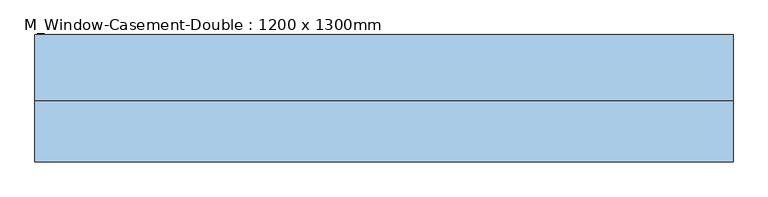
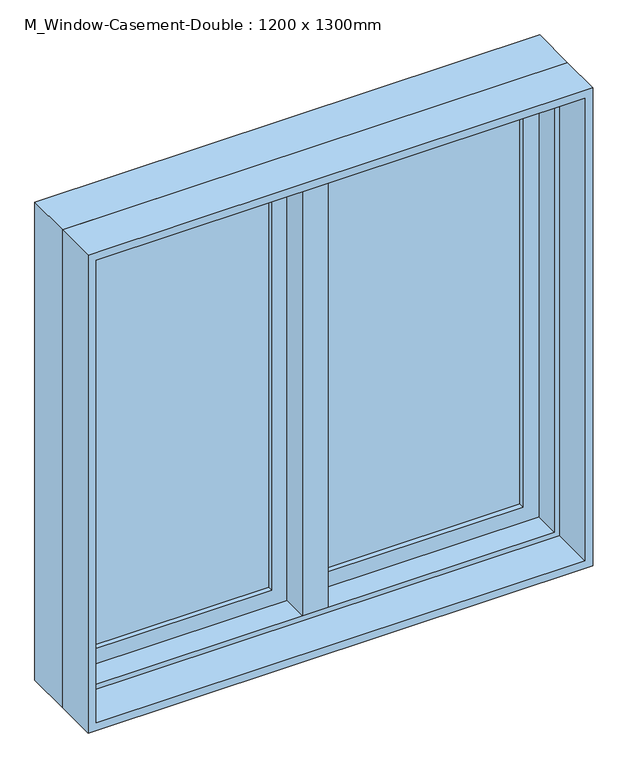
"""IFC4 building model written with IfcOpenShell, lengths in millimetres: window geometry, M_Window-Casement-Double : 1200 x 1300mm."""

from ifc_helpers import new_model, si_unit, frame, origin, place, context, project, spatial, polyline, outline, extrude, faceted_brep, source, transform, mapped, element, save


def m_window_casement_double_1200_x_1300mm_fd8d9702(model_context):
    return source(origin(), model_context, "Body", "SolidModel", [
        faceted_brep([(9.525, 119.05, 2087.3), (-9.525, 119.05, 2087.3), (-9.525, 68.25, 2087.3), (9.525, 68.25, 2087.3), (9.525, 119.05, 912.7), (9.525, 68.25, 912.7), (-9.525, 68.25, 912.7), (-9.525, 119.05, 912.7), (-9.525, 68.25, 931.75), (-9.525, 68.25, 2068.25), (-30.1625, 68.25, 931.75), (-30.1625, 68.25, 2068.25), (-30.1625, 4.75, 931.75), (-30.1625, 4.75, 2068.25), (30.1625, 4.75, 931.75), (30.1625, 4.75, 2068.25), (30.1625, 68.25, 931.75), (30.1625, 68.25, 2068.25), (9.525, 68.25, 931.75), (9.525, 68.25, 2068.25)], [[[0, 1, 2, 3]], [[4, 5, 6, 7]], [[1, 0, 4, 7]], [[2, 1, 7, 6, 8, 9]], [[9, 8, 10, 11]], [[11, 10, 12, 13]], [[13, 12, 14, 15]], [[15, 14, 16, 17]], [[17, 16, 18, 19]], [[0, 3, 19, 18, 5, 4]], [[18, 8, 6, 5]], [[9, 19, 3, 2]], [[8, 18, 16, 14, 12, 10]], [[19, 9, 11, 13, 15, 17]]]),
        extrude(outline(polyline([(-66.675, 100.0), (-66.675, 93.65), (-530.15, 93.65), (-530.15, 100.0), (-66.675, 100.0)])), frame((0.0, 0.0, 969.85), z_axis=(0.0, 0.0, 1.0), x_axis=(1.0, 0.0, 0.0)), (0.0, 0.0, 1.0), 1060.3),
        extrude(outline(polyline([(-530.15, 80.95), (-530.15, 87.3), (-66.675, 87.3), (-66.675, 80.95), (-530.15, 80.95)])), frame((0.0, 0.0, 969.85), z_axis=(0.0, 0.0, 1.0), x_axis=(1.0, 0.0, 0.0)), (0.0, 0.0, 1.0), 1060.3),
        extrude(outline(polyline([(530.15, 100.0), (530.15, 93.65), (66.675, 93.65), (66.675, 100.0), (530.15, 100.0)])), frame((0.0, 0.0, 969.85), z_axis=(0.0, 0.0, 1.0), x_axis=(1.0, 0.0, 0.0)), (0.0, 0.0, 1.0), 1060.3),
        extrude(outline(polyline([(66.675, 80.95), (66.675, 87.3), (530.15, 87.3), (530.15, 80.95), (66.675, 80.95)])), frame((0.0, 0.0, 969.85), z_axis=(0.0, 0.0, 1.0), x_axis=(1.0, 0.0, 0.0)), (0.0, 0.0, 1.0), 1060.3),
        extrude(outline(polyline([(2087.3, -587.3), (912.7, -587.3), (912.7, -9.525), (2087.3, -9.525), (2087.3, -587.3)]), holes=[polyline([(2030.15, -66.675), (969.85, -66.675), (969.85, -530.15), (2030.15, -530.15), (2030.15, -66.675)])]), frame((0.0, 68.25, 0.0), z_axis=(0.0, 1.0, 0.0), x_axis=(0.0, 0.0, 1.0)), (0.0, 0.0, 1.0), 44.45),
        extrude(outline(polyline([(912.7, 587.3), (2087.3, 587.3), (2087.3, 9.525), (912.7, 9.525), (912.7, 587.3)]), holes=[polyline([(969.85, 66.675), (2030.15, 66.675), (2030.15, 530.15), (969.85, 530.15), (969.85, 66.675)])]), frame((0.0, 68.25, 0.0), z_axis=(0.0, 1.0, 0.0), x_axis=(0.0, 0.0, 1.0)), (0.0, 0.0, 1.0), 44.45),
        extrude(outline(polyline([(2100.0, -600.0), (900.0, -600.0), (900.0, 600.0), (2100.0, 600.0), (2100.0, -600.0)]), holes=[polyline([(2080.95, 580.95), (919.05, 580.95), (919.05, -580.95), (2080.95, -580.95), (2080.95, 580.95)])]), frame((0.0, -100.0, 0.0), z_axis=(0.0, 1.0, 0.0), x_axis=(0.0, 0.0, 1.0)), (0.0, 0.0, 1.0), 104.75),
        faceted_brep([(568.25, 68.25, 2068.25), (568.25, 4.75, 2068.25), (-568.25, 4.75, 2068.25), (-568.25, 68.25, 2068.25), (587.3, 119.05, 2087.3), (587.3, 68.25, 2087.3), (-587.3, 68.25, 2087.3), (-587.3, 119.05, 2087.3), (600.0, 4.75, 2100.0), (600.0, 119.05, 2100.0), (-600.0, 119.05, 2100.0), (-600.0, 4.75, 2100.0), (-568.25, 4.75, 931.75), (-568.25, 68.25, 931.75), (-587.3, 68.25, 912.7), (-587.3, 119.05, 912.7), (-600.0, 119.05, 900.0), (-600.0, 4.75, 900.0), (568.25, 4.75, 931.75), (568.25, 68.25, 931.75), (587.3, 68.25, 912.7), (587.3, 119.05, 912.7), (600.0, 119.05, 900.0), (600.0, 4.75, 900.0)], [[[0, 1, 2, 3]], [[4, 5, 6, 7]], [[8, 9, 10, 11]], [[3, 2, 12, 13]], [[7, 6, 14, 15]], [[11, 10, 16, 17]], [[13, 12, 18, 19]], [[15, 14, 20, 21]], [[17, 16, 22, 23]], [[11, 17, 23, 8], [1, 18, 12, 2]], [[19, 18, 1, 0]], [[5, 20, 14, 6], [3, 13, 19, 0]], [[21, 20, 5, 4]], [[23, 22, 9, 8]], [[9, 22, 16, 10], [7, 15, 21, 4]]]),
    ])


if __name__ == "__main__":
    model = new_model("IFC4")
    model_context = context("Model", 3, world=origin())
    ifc_project = project(units=[si_unit("LENGTHUNIT", "METRE", prefix="MILLI")], contexts=[model_context])
    site = spatial("IfcSite", under=ifc_project)
    building = spatial("IfcBuilding", under=site)
    placement = place(None, origin())
    m_window_casement_double_1200_x_1300mm_shape = m_window_casement_double_1200_x_1300mm_fd8d9702(model_context)
    element("IfcWindow", 1, ObjectType="M_Window-Casement-Double : 1200 x 1300mm", at=placement, inside=building, context=model_context, shape_type="MappedRepresentation", body=[
        mapped(m_window_casement_double_1200_x_1300mm_shape, transform((0.0, 0.0, 0.0), x_axis=(1.0, 0.0, 0.0), y_axis=(0.0, 1.0, 0.0), z_axis=(0.0, 0.0, 1.0))),
    ])
    save(model, "model.ifc")
